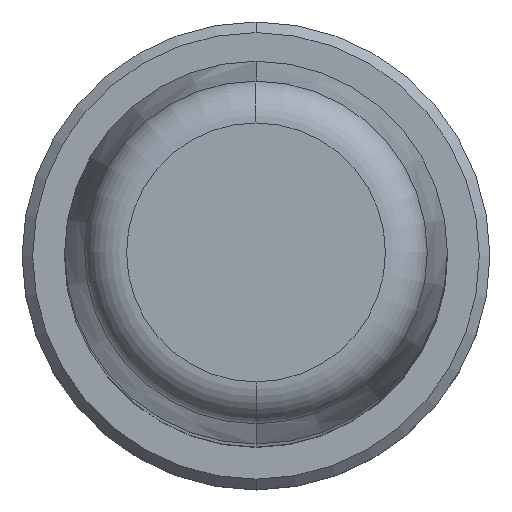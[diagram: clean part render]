
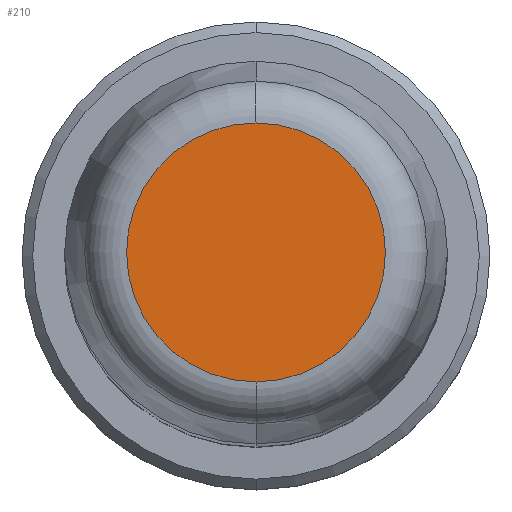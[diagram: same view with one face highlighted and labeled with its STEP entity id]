
A CAD part, top view. The second image highlights one B-rep face of the part: STEP entity #210.
In plain terms, the highlighted planar face has unit normal (0, 0, 1).
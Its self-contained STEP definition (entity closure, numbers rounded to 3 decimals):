
#1=CARTESIAN_POINT('',(0.,0.,100.));
#2=DIRECTION('',(0.,0.,-1.));
#3=DIRECTION('',(0.,-1.,0.));
#4=AXIS2_PLACEMENT_3D('',#1,#2,#3);
#6=CARTESIAN_POINT('',(0.,0.,100.));
#7=DIRECTION('',(0.,0.,-1.));
#8=DIRECTION('',(0.,1.,0.));
#9=AXIS2_PLACEMENT_3D('',#6,#7,#8);
#183=CARTESIAN_POINT('',(0.,-6.088,100.));
#184=CARTESIAN_POINT('',(0.,6.088,100.));
#185=VERTEX_POINT('',#183);
#186=VERTEX_POINT('',#184);
#199=CARTESIAN_POINT('',(0.,0.,100.));
#200=DIRECTION('',(0.,0.,1.));
#201=DIRECTION('',(0.,-1.,0.));
#202=AXIS2_PLACEMENT_3D('',#199,#200,#201);
#203=PLANE('',#202);
#205=ORIENTED_EDGE('',*,*,#204,.T.);
#207=ORIENTED_EDGE('',*,*,#206,.T.);
#208=EDGE_LOOP('',(#205,#207));
#209=FACE_OUTER_BOUND('',#208,.F.);
#210=ADVANCED_FACE('',(#209),#203,.T.);
#5=CIRCLE('',#4,6.088);
#10=CIRCLE('',#9,6.088);
#204=EDGE_CURVE('',#185,#186,#5,.T.);
#206=EDGE_CURVE('',#186,#185,#10,.T.);
